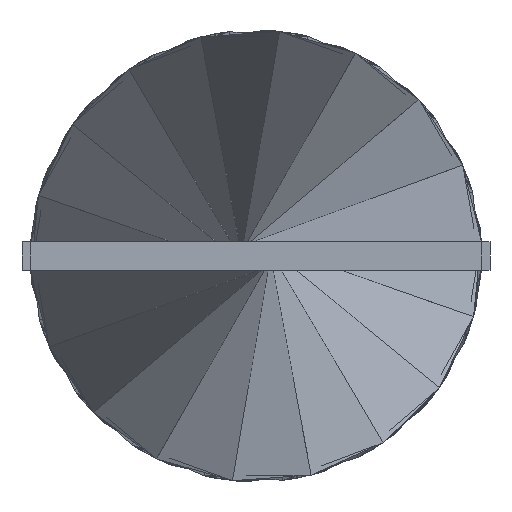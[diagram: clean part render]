
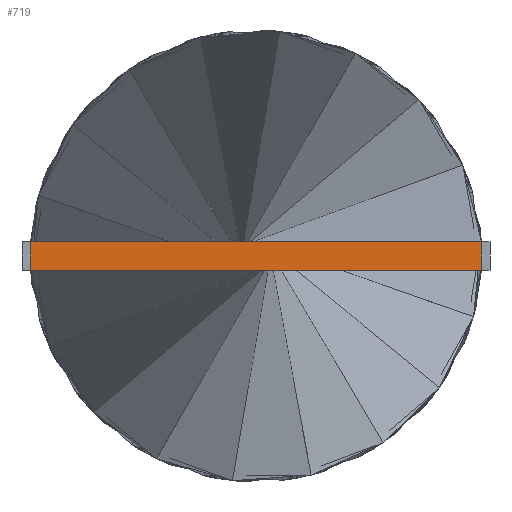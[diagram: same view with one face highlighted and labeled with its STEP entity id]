
A CAD part, front view. The second image highlights one B-rep face of the part: STEP entity #719.
In plain terms, the highlighted planar face has unit normal (0, -1, 0).
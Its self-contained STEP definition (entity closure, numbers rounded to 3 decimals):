
#84 = LINE ( 'NONE', #1019, #1150 ) ;
#155 = CARTESIAN_POINT ( 'NONE',  ( 7.9, 0., -0.5 ) ) ;
#211 = VECTOR ( 'NONE', #592, 1000. ) ;
#238 = AXIS2_PLACEMENT_3D ( 'NONE', #1250, #2067, #1467 ) ;
#363 = LINE ( 'NONE', #2202, #1886 ) ;
#592 = DIRECTION ( 'NONE',  ( 0., 0., 1. ) ) ;
#663 = LINE ( 'NONE', #2195, #1774 ) ;
#719 = ADVANCED_FACE ( 'NONE', ( #2517 ), #1058, .T. ) ;
#907 = EDGE_CURVE ( 'NONE', #1109, #2069, #363, .T. ) ;
#940 = VERTEX_POINT ( 'NONE', #1595 ) ;
#959 = DIRECTION ( 'NONE',  ( 0., 0., 1. ) ) ;
#1019 = CARTESIAN_POINT ( 'NONE',  ( -7.9, 0., 0.5 ) ) ;
#1058 = PLANE ( 'NONE',  #238 ) ;
#1103 = ORIENTED_EDGE ( 'NONE', *, *, #907, .T. ) ;
#1109 = VERTEX_POINT ( 'NONE', #2456 ) ;
#1130 = ORIENTED_EDGE ( 'NONE', *, *, #2622, .F. ) ;
#1150 = VECTOR ( 'NONE', #1426, 1000. ) ;
#1177 = EDGE_CURVE ( 'NONE', #2069, #1490, #2309, .T. ) ;
#1250 = CARTESIAN_POINT ( 'NONE',  ( -7.9, 0., -0.5 ) ) ;
#1327 = EDGE_CURVE ( 'NONE', #940, #1490, #84, .T. ) ;
#1381 = DIRECTION ( 'NONE',  ( 1., 0., 0. ) ) ;
#1426 = DIRECTION ( 'NONE',  ( 1., 0., 0. ) ) ;
#1467 = DIRECTION ( 'NONE',  ( 0., 0., -1. ) ) ;
#1469 = EDGE_LOOP ( 'NONE', ( #2690, #2655, #1130, #1103 ) ) ;
#1490 = VERTEX_POINT ( 'NONE', #2592 ) ;
#1595 = CARTESIAN_POINT ( 'NONE',  ( -7.9, 0., 0.5 ) ) ;
#1774 = VECTOR ( 'NONE', #959, 1000. ) ;
#1886 = VECTOR ( 'NONE', #1381, 1000. ) ;
#2067 = DIRECTION ( 'NONE',  ( 0., -1., 0. ) ) ;
#2069 = VERTEX_POINT ( 'NONE', #2468 ) ;
#2195 = CARTESIAN_POINT ( 'NONE',  ( -7.9, 0., -0.5 ) ) ;
#2202 = CARTESIAN_POINT ( 'NONE',  ( -7.9, 0., -0.5 ) ) ;
#2309 = LINE ( 'NONE', #155, #211 ) ;
#2456 = CARTESIAN_POINT ( 'NONE',  ( -7.9, 0., -0.5 ) ) ;
#2468 = CARTESIAN_POINT ( 'NONE',  ( 7.9, 0., -0.5 ) ) ;
#2517 = FACE_OUTER_BOUND ( 'NONE', #1469, .T. ) ;
#2592 = CARTESIAN_POINT ( 'NONE',  ( 7.9, 0., 0.5 ) ) ;
#2622 = EDGE_CURVE ( 'NONE', #1109, #940, #663, .T. ) ;
#2655 = ORIENTED_EDGE ( 'NONE', *, *, #1327, .F. ) ;
#2690 = ORIENTED_EDGE ( 'NONE', *, *, #1177, .T. ) ;
